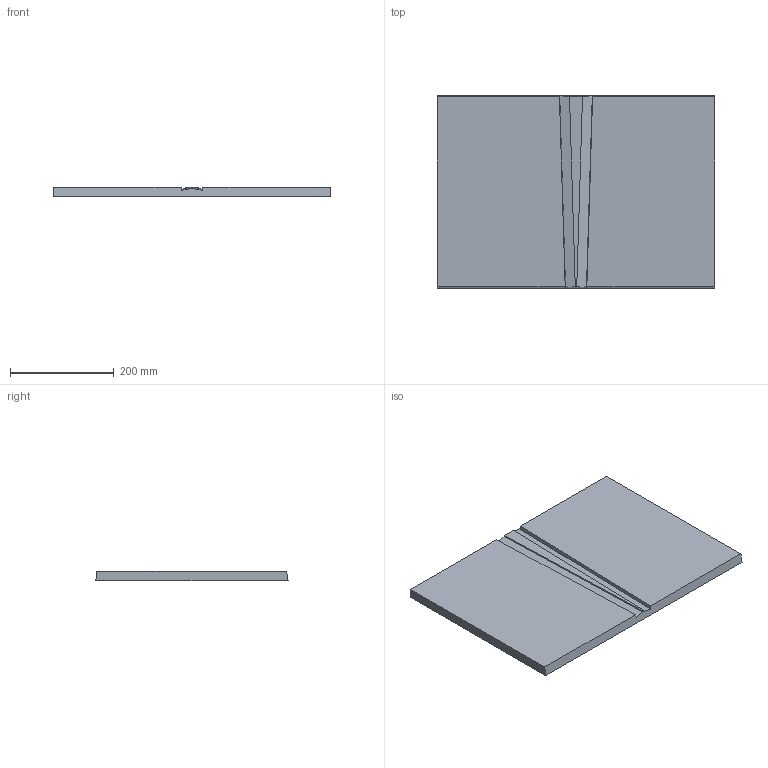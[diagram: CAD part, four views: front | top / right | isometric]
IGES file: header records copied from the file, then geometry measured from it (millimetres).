
Start section:  PTC IGES file: C:\Documents and Settings\Brad\Desktop\IGES\module_back_ panel.igs
Global section: file name: C:\Documents and Settings\Brad\Desktop\IGES\module_back_panel.igs; native system: Brad by Parametric Technology Corporation; preprocessor: 2003250; author: Unknown; organization: PTC; date: 040521.142625; units: inch
Bounding box: 533.4 x 369.81 x 19.05 mm (x, y, z)
Volume: 3669276 mm3; surface area: 432723.5 mm2
Topology: 1 solids, 1 shells, 14 faces, 36 edges, 24 vertices
Faces by surface type: bspline 14
